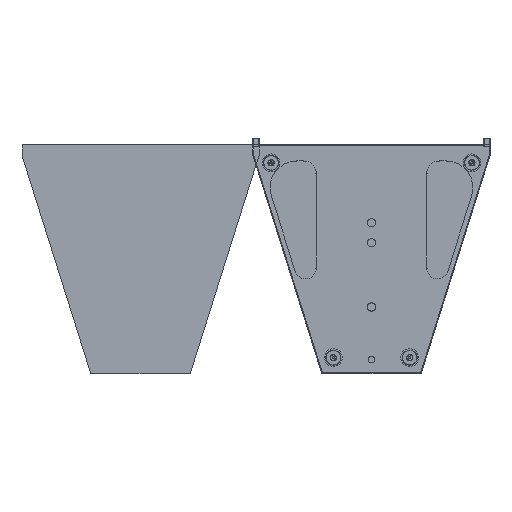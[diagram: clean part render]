
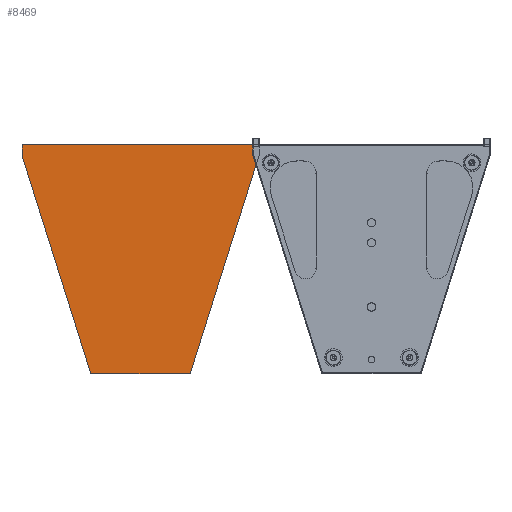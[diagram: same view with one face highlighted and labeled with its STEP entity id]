
A CAD part, front view. The second image highlights one B-rep face of the part: STEP entity #8469.
In plain terms, the highlighted planar face has unit normal (0, -1, 0).
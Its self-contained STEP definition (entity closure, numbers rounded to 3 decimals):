
#1868 = AXIS2_PLACEMENT_3D ( 'NONE', #6282, #6281, #6280 ) ;
#2850 = FACE_OUTER_BOUND ( 'NONE', #9220, .T. ) ;
#3486 = LINE ( 'NONE', #4917, #3488 ) ;
#3488 = VECTOR ( 'NONE', #4918, 1000. ) ;
#3495 = LINE ( 'NONE', #4925, #3496 ) ;
#3496 = VECTOR ( 'NONE', #4926, 1000. ) ;
#3501 = LINE ( 'NONE', #4931, #3502 ) ;
#3502 = VECTOR ( 'NONE', #4932, 1000. ) ;
#3507 = LINE ( 'NONE', #4937, #3508 ) ;
#3508 = VECTOR ( 'NONE', #4938, 1000. ) ;
#3513 = LINE ( 'NONE', #4943, #3514 ) ;
#3514 = VECTOR ( 'NONE', #4944, 1000. ) ;
#3519 = LINE ( 'NONE', #4949, #3520 ) ;
#3520 = VECTOR ( 'NONE', #4950, 1000. ) ;
#4917 = CARTESIAN_POINT ( 'NONE',  ( 0., 0., 0. ) ) ;
#4918 = DIRECTION ( 'NONE',  ( 0., 0., 1. ) ) ;
#4925 = CARTESIAN_POINT ( 'NONE',  ( 0., 0., 0. ) ) ;
#4926 = DIRECTION ( 'NONE',  ( 1., 0., 0. ) ) ;
#4931 = CARTESIAN_POINT ( 'NONE',  ( 590., 0., 0. ) ) ;
#4932 = DIRECTION ( 'NONE',  ( 0., 0., -1. ) ) ;
#4937 = CARTESIAN_POINT ( 'NONE',  ( 418.793, 0., -570. ) ) ;
#4938 = DIRECTION ( 'NONE',  ( -0.301, 0., -0.954 ) ) ;
#4943 = CARTESIAN_POINT ( 'NONE',  ( 171.207, 0., -570. ) ) ;
#4944 = DIRECTION ( 'NONE',  ( -1., 0., 0. ) ) ;
#4949 = CARTESIAN_POINT ( 'NONE',  ( 0., 0., -27. ) ) ;
#4950 = DIRECTION ( 'NONE',  ( -0.301, 0., 0.954 ) ) ;
#6128 = CARTESIAN_POINT ( 'NONE',  ( 0., 0., -27. ) ) ;
#6131 = CARTESIAN_POINT ( 'NONE',  ( 0., 0., 0. ) ) ;
#6136 = CARTESIAN_POINT ( 'NONE',  ( 590., 0., 0. ) ) ;
#6143 = CARTESIAN_POINT ( 'NONE',  ( 590., 0., -27. ) ) ;
#6280 = DIRECTION ( 'NONE',  ( 0., 0., -1. ) ) ;
#6281 = DIRECTION ( 'NONE',  ( 0., -1., 0. ) ) ;
#6282 = CARTESIAN_POINT ( 'NONE',  ( 0., 0., -570. ) ) ;
#6283 = PLANE ( 'NONE',  #1868 ) ;
#6474 = CARTESIAN_POINT ( 'NONE',  ( 418.793, 0., -570. ) ) ;
#6479 = CARTESIAN_POINT ( 'NONE',  ( 171.207, 0., -570. ) ) ;
#8111 = VERTEX_POINT ( 'NONE', #6479 ) ;
#8115 = VERTEX_POINT ( 'NONE', #6474 ) ;
#8121 = VERTEX_POINT ( 'NONE', #6143 ) ;
#8125 = VERTEX_POINT ( 'NONE', #6136 ) ;
#8135 = VERTEX_POINT ( 'NONE', #6131 ) ;
#8137 = VERTEX_POINT ( 'NONE', #6128 ) ;
#8469 = ADVANCED_FACE ( 'NONE', ( #2850 ), #6283, .T. ) ;
#9220 = EDGE_LOOP ( 'NONE', ( #9992, #9993, #9994, #9995, #9996, #9997 ) ) ;
#9992 = ORIENTED_EDGE ( 'NONE', *, *, #10515, .F. ) ;
#9993 = ORIENTED_EDGE ( 'NONE', *, *, #10531, .F. ) ;
#9994 = ORIENTED_EDGE ( 'NONE', *, *, #10528, .F. ) ;
#9995 = ORIENTED_EDGE ( 'NONE', *, *, #10525, .F. ) ;
#9996 = ORIENTED_EDGE ( 'NONE', *, *, #10522, .F. ) ;
#9997 = ORIENTED_EDGE ( 'NONE', *, *, #10519, .F. ) ;
#10515 = EDGE_CURVE ( 'NONE', #8137, #8135, #3486, .T. ) ;
#10519 = EDGE_CURVE ( 'NONE', #8135, #8125, #3495, .T. ) ;
#10522 = EDGE_CURVE ( 'NONE', #8125, #8121, #3501, .T. ) ;
#10525 = EDGE_CURVE ( 'NONE', #8121, #8115, #3507, .T. ) ;
#10528 = EDGE_CURVE ( 'NONE', #8115, #8111, #3513, .T. ) ;
#10531 = EDGE_CURVE ( 'NONE', #8111, #8137, #3519, .T. ) ;
